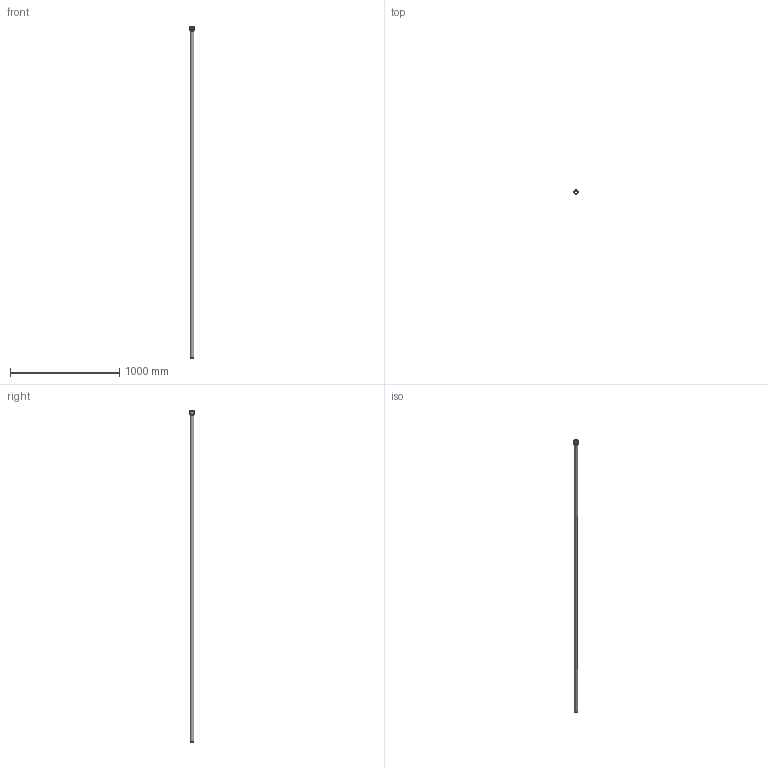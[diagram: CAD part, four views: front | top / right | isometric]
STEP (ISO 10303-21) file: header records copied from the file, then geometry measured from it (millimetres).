
FILE_DESCRIPTION(/* description */ (''),/* implementation_level */ '2;1');
FILE_NAME(/* name */ 'Z:\Geberit\Export\NewStep\390007.stp',/* time_stamp */ '2014-04-02T08:07:57+02:00',/* author */ ('ML'),/* organization */ (''),/* preprocessor_version */ 'ST-DEVELOPER v15.2',/* originating_system */ 'Autodesk Inventor 2014',/* authorisation */ '');
FILE_SCHEMA (('AUTOMOTIVE_DESIGN { 1 0 10303 214 3 1 1 }'));
Length unit declared in the file: millimetre
Products named in the file (3): 861665; 861580ohne; 390007
Bounding box: 41.8 x 41.8 x 3044.3 mm (x, y, z)
Volume: 580074.9 mm3; surface area: 581084.3 mm2
Topology: 2 solids, 2 shells, 47 faces, 104 edges, 71 vertices
Faces by surface type: torus 24, cylinder 11, plane 10, cone 2
Full cylindrical faces by diameter (mm): 28.15 x2, 32.15 x2, 32.8 x2, 34.8 x1, 36.8 x2, 37.8 x1, 41.8 x1
Entity records: 1971 total; most frequent: CARTESIAN_POINT 930, DIRECTION 182, ORIENTED_EDGE 174, AXIS2_PLACEMENT_3D 91, EDGE_CURVE 87, EDGE_LOOP 78, VERTEX_POINT 71, STYLED_ITEM 49
